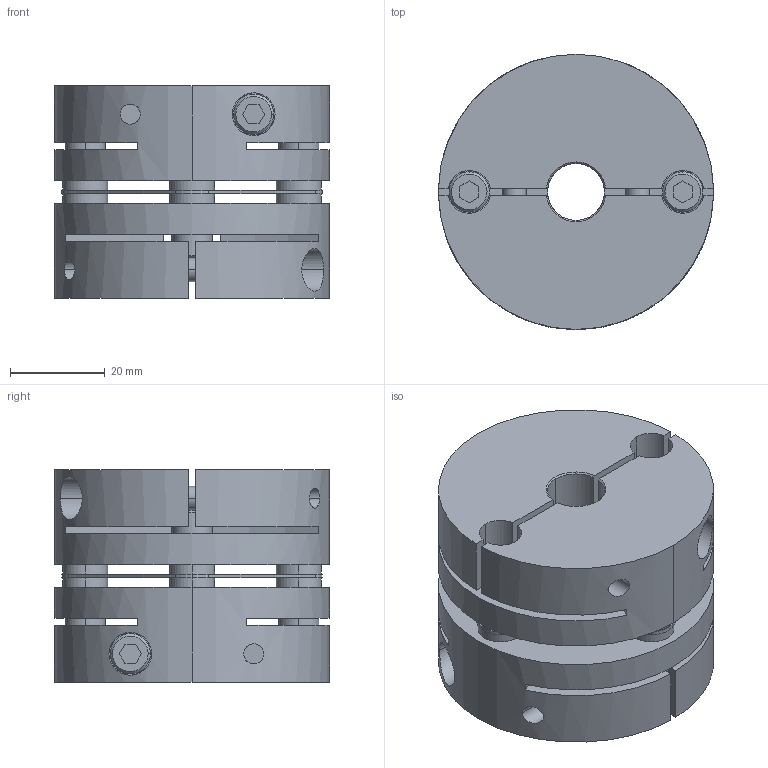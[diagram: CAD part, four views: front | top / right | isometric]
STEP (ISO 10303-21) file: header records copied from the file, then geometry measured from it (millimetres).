
FILE_DESCRIPTION((''),'2;1');
FILE_NAME('LAS-58C-12×15.stp','2011-08-09T15:16:13',(''),(''),'AutoCAD STEP 2000i','AutoCAD 2000i',', , ');
FILE_SCHEMA(('CONFIG_CONTROL_DESIGN'));
Length unit declared in the file: millimetre
Products named in the file (5): LAS-58C-12×12; 忣兜1; LA-5802-D12-1; LA-5802-D12; LAS58-ITA
Assembly tree (4 placements, depth 2):
  LAS-58C-12×12
    忣兜1
    LA-5802-D12-1
    LA-5802-D12
    LAS58-ITA
Bounding box: 58 x 58 x 44.8 mm (x, y, z)
Volume: 89562.1 mm3; surface area: 33936.3 mm2
Topology: 1 solids, 1 shells, 236 faces, 600 edges, 392 vertices
Faces by surface type: plane 112, cylinder 96, cone 28
Entity records: 7859 total; most frequent: CARTESIAN_POINT 1777, DIRECTION 1294, ORIENTED_EDGE 1200, EDGE_CURVE 600, AXIS2_PLACEMENT_3D 477, VERTEX_POINT 392, VECTOR 340, LINE 340
